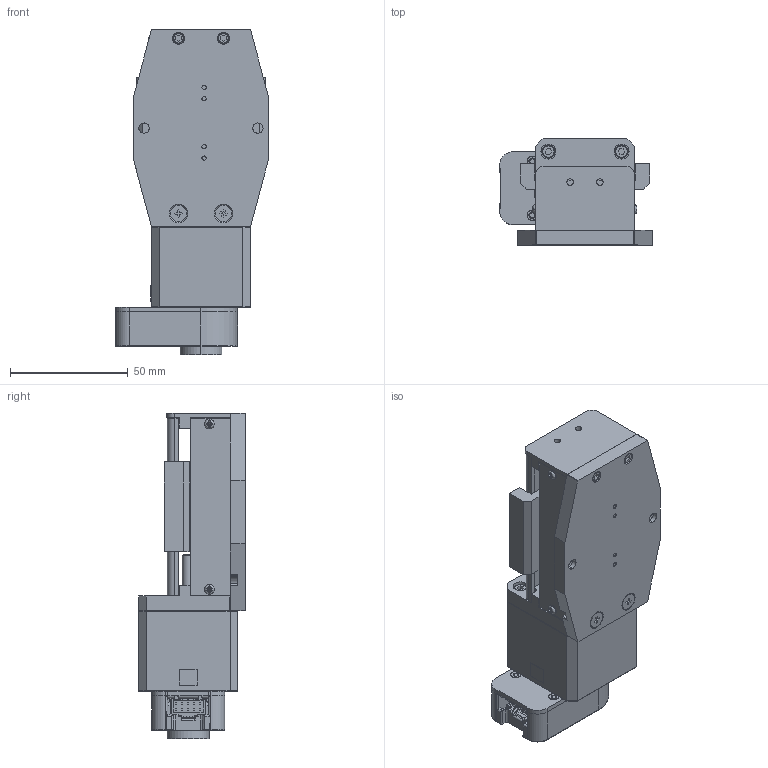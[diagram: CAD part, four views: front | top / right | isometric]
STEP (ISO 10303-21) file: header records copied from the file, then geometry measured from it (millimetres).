
FILE_DESCRIPTION (( 'STEP AP214' ), '1' );
FILE_NAME ('L3506.025-STB_v2_20180817.STEP', '2018-08-22T11:32:52', ( '' ), ( '' ), 'SwSTEP 2.0', 'SolidWorks 2017', '' );
FILE_SCHEMA (( 'AUTOMOTIVE_DESIGN' ));
Length unit declared in the file: millimetre
Products named in the file (1): L3506.025-STB_v2_20180817
Bounding box: 64.77 x 45.21 x 138 mm (x, y, z)
Volume: 156046 mm3; surface area: 81505 mm2
Topology: 36 solids, 40 shells, 1726 faces, 4269 edges, 2696 vertices
Faces by surface type: plane 803, cylinder 530, cone 342, bspline 51
Entity records: 53028 total; most frequent: CARTESIAN_POINT 11004, DIRECTION 8748, ORIENTED_EDGE 8494, EDGE_CURVE 4247, AXIS2_PLACEMENT_3D 3106, VERTEX_POINT 2696, LINE 2536, VECTOR 2536
